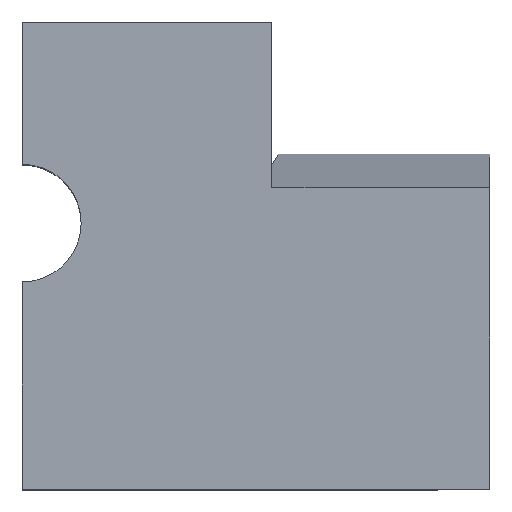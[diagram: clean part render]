
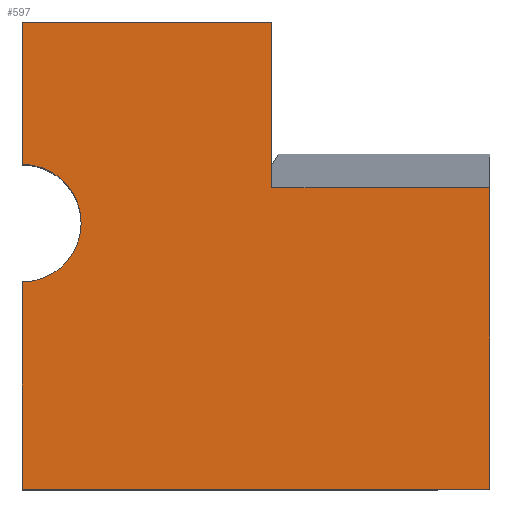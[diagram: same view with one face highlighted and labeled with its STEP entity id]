
A CAD part, top view. The second image highlights one B-rep face of the part: STEP entity #597.
In plain terms, the highlighted planar face has unit normal (0, 0, 1).
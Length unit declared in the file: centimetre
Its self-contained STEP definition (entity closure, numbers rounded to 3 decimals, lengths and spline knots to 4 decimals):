
#2 = CARTESIAN_POINT ( 'NONE',  ( 0., 1000., 1000. ) ) ;
#6 = CARTESIAN_POINT ( 'NONE',  ( 0., 569.5885, 1000. ) ) ;
#20 = DIRECTION ( 'NONE',  ( 0., -1., 0. ) ) ;
#21 = EDGE_CURVE ( 'NONE', #469, #880, #599, .T. ) ;
#29 = EDGE_CURVE ( 'NONE', #323, #711, #533, .T. ) ;
#44 = VERTEX_POINT ( 'NONE', #826 ) ;
#55 = DIRECTION ( 'NONE',  ( 1., 0., 0. ) ) ;
#79 = LINE ( 'NONE', #2, #724 ) ;
#98 = CARTESIAN_POINT ( 'NONE',  ( 0., 695.3122, 1000. ) ) ;
#104 = EDGE_LOOP ( 'NONE', ( #617, #259, #423, #361, #851, #630, #314, #204, #194 ) ) ;
#124 = LINE ( 'NONE', #196, #217 ) ;
#134 = EDGE_CURVE ( 'NONE', #262, #415, #739, .T. ) ;
#151 = EDGE_CURVE ( 'NONE', #921, #469, #452, .T. ) ;
#160 = DIRECTION ( 'NONE',  ( 1., 0., 0. ) ) ;
#163 = DIRECTION ( 'NONE',  ( 0., -1., 0. ) ) ;
#191 = DIRECTION ( 'NONE',  ( 1., 0., 0. ) ) ;
#194 = ORIENTED_EDGE ( 'NONE', *, *, #870, .F. ) ;
#196 = CARTESIAN_POINT ( 'NONE',  ( 0., 0., 1000. ) ) ;
#201 = DIRECTION ( 'NONE',  ( 0., 0., 1. ) ) ;
#204 = ORIENTED_EDGE ( 'NONE', *, *, #134, .T. ) ;
#206 = DIRECTION ( 'NONE',  ( 1., 0., 0. ) ) ;
#214 = CARTESIAN_POINT ( 'NONE',  ( 534.0204, 1000., 1000. ) ) ;
#217 = VECTOR ( 'NONE', #191, 100. ) ;
#222 = CIRCLE ( 'NONE', #754, 125.7237 ) ;
#230 = CARTESIAN_POINT ( 'NONE',  ( 534.0204, 1000., 1000. ) ) ;
#232 = VERTEX_POINT ( 'NONE', #786 ) ;
#237 = CARTESIAN_POINT ( 'NONE',  ( 534.0204, 645.07, 1000. ) ) ;
#258 = EDGE_CURVE ( 'NONE', #921, #262, #79, .T. ) ;
#259 = ORIENTED_EDGE ( 'NONE', *, *, #29, .T. ) ;
#262 = VERTEX_POINT ( 'NONE', #290 ) ;
#274 = FACE_OUTER_BOUND ( 'NONE', #104, .T. ) ;
#290 = CARTESIAN_POINT ( 'NONE',  ( 0., 1000., 1000. ) ) ;
#293 = DIRECTION ( 'NONE',  ( 0., 0., 1. ) ) ;
#297 = AXIS2_PLACEMENT_3D ( 'NONE', #354, #201, #781 ) ;
#314 = ORIENTED_EDGE ( 'NONE', *, *, #258, .T. ) ;
#323 = VERTEX_POINT ( 'NONE', #651 ) ;
#354 = CARTESIAN_POINT ( 'NONE',  ( 0., 0., 1000. ) ) ;
#361 = ORIENTED_EDGE ( 'NONE', *, *, #610, .T. ) ;
#375 = CARTESIAN_POINT ( 'NONE',  ( 1000., 645.07, 1000. ) ) ;
#384 = CARTESIAN_POINT ( 'NONE',  ( 0., 1000., 1000. ) ) ;
#415 = VERTEX_POINT ( 'NONE', #98 ) ;
#416 = CARTESIAN_POINT ( 'NONE',  ( 0., 569.5885, 1000. ) ) ;
#422 = CARTESIAN_POINT ( 'NONE',  ( 1000., 1000., 1000. ) ) ;
#423 = ORIENTED_EDGE ( 'NONE', *, *, #592, .T. ) ;
#428 = PLANE ( 'NONE',  #297 ) ;
#452 = LINE ( 'NONE', #230, #513 ) ;
#464 = VECTOR ( 'NONE', #604, 100. ) ;
#469 = VERTEX_POINT ( 'NONE', #904 ) ;
#497 = LINE ( 'NONE', #422, #806 ) ;
#502 = DIRECTION ( 'NONE',  ( 0., 0., 1. ) ) ;
#513 = VECTOR ( 'NONE', #20, 100. ) ;
#533 = LINE ( 'NONE', #750, #464 ) ;
#542 = VECTOR ( 'NONE', #163, 100. ) ;
#578 = DIRECTION ( 'NONE',  ( -1., 0., 0. ) ) ;
#592 = EDGE_CURVE ( 'NONE', #711, #44, #124, .T. ) ;
#597 = ADVANCED_FACE ( 'NONE', ( #274 ), #428, .T. ) ;
#599 = LINE ( 'NONE', #237, #746 ) ;
#604 = DIRECTION ( 'NONE',  ( 0., -1., 0. ) ) ;
#610 = EDGE_CURVE ( 'NONE', #44, #880, #497, .T. ) ;
#617 = ORIENTED_EDGE ( 'NONE', *, *, #712, .F. ) ;
#626 = CARTESIAN_POINT ( 'NONE',  ( 0., 0., 1000. ) ) ;
#630 = ORIENTED_EDGE ( 'NONE', *, *, #151, .F. ) ;
#651 = CARTESIAN_POINT ( 'NONE',  ( 0., 443.8648, 1000. ) ) ;
#711 = VERTEX_POINT ( 'NONE', #626 ) ;
#712 = EDGE_CURVE ( 'NONE', #323, #232, #801, .T. ) ;
#714 = DIRECTION ( 'NONE',  ( 0., 1., 0. ) ) ;
#724 = VECTOR ( 'NONE', #578, 100. ) ;
#739 = LINE ( 'NONE', #384, #542 ) ;
#746 = VECTOR ( 'NONE', #160, 100. ) ;
#750 = CARTESIAN_POINT ( 'NONE',  ( 0., 1000., 1000. ) ) ;
#754 = AXIS2_PLACEMENT_3D ( 'NONE', #6, #293, #206 ) ;
#781 = DIRECTION ( 'NONE',  ( 1., 0., 0. ) ) ;
#786 = CARTESIAN_POINT ( 'NONE',  ( 125.7237, 569.5885, 1000. ) ) ;
#801 = CIRCLE ( 'NONE', #829, 125.7237 ) ;
#806 = VECTOR ( 'NONE', #714, 100. ) ;
#826 = CARTESIAN_POINT ( 'NONE',  ( 1000., 0., 1000. ) ) ;
#829 = AXIS2_PLACEMENT_3D ( 'NONE', #416, #502, #55 ) ;
#851 = ORIENTED_EDGE ( 'NONE', *, *, #21, .F. ) ;
#870 = EDGE_CURVE ( 'NONE', #232, #415, #222, .T. ) ;
#880 = VERTEX_POINT ( 'NONE', #375 ) ;
#904 = CARTESIAN_POINT ( 'NONE',  ( 534.0204, 645.07, 1000. ) ) ;
#921 = VERTEX_POINT ( 'NONE', #214 ) ;
